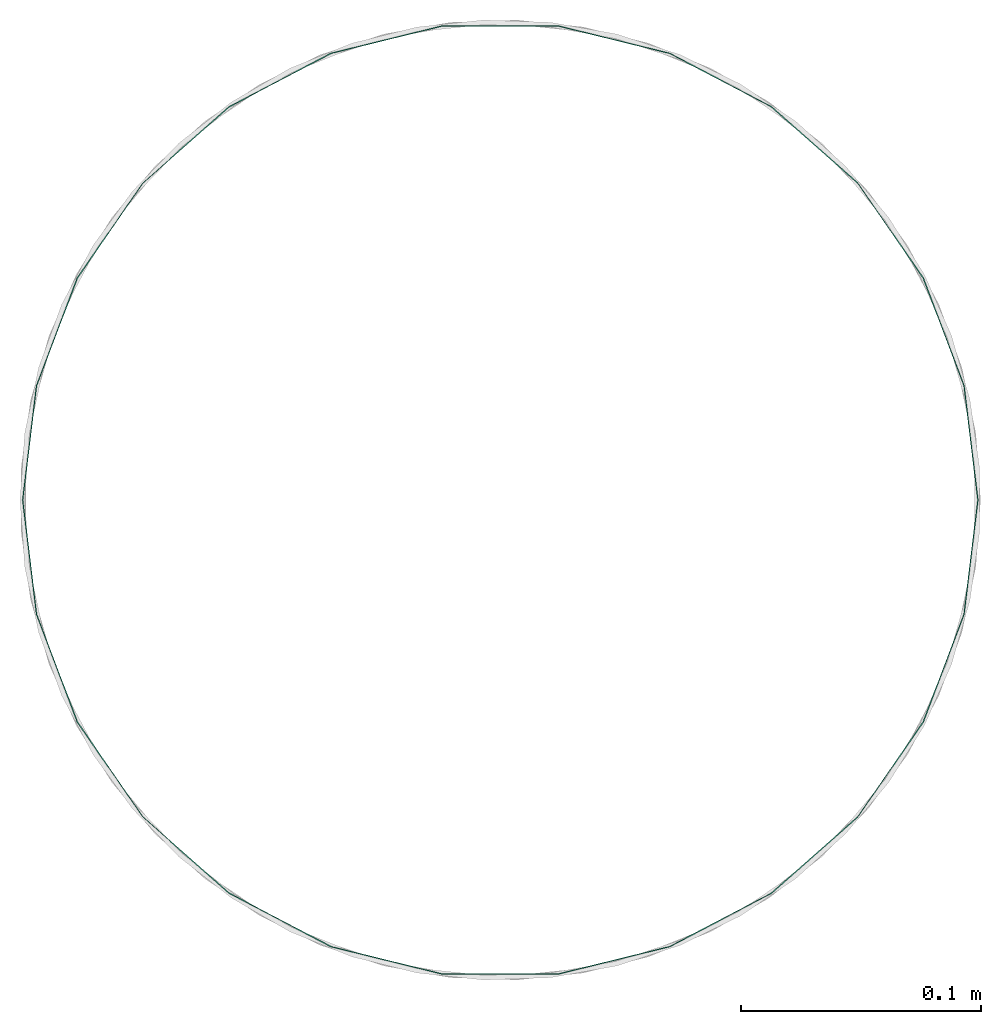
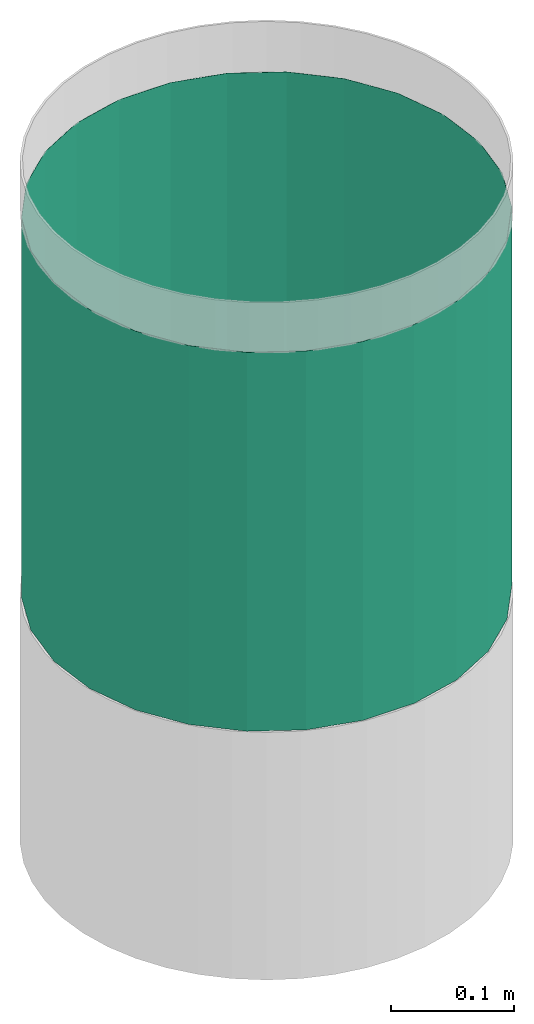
# One storey, part 2 of 2: 1 flow controller.
"""IFC2X3 building model written with IfcOpenShell, lengths in millimetres."""

from ifc_helpers import new_model, entity, si_unit, converted_unit, derived_unit, direction, frame, origin_with_axes, place, context, subcontext, project, spatial, open_shell, surface_model, source, transform, mapped, type_object, element, save


model = new_model("IFC2X3")

# Units and contexts
model_context = context("Model", 3, precision=0.01, world=frame((0.0, 4.29681676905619e-09, 0.0)), true_north=direction((4.01073788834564e-13, 1.0)))
plan_context = context("Plan", 3, precision=0.01, world=frame((0.0, 4.29681676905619e-09, 0.0)), true_north=direction((4.01073788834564e-13, 1.0)))
body_context = subcontext(model_context, "Body", "Model", "MODEL_VIEW")
ifc_project = project(units=[converted_unit("PLANEANGLEUNIT", "DEGREE", entity("IfcPositiveLengthMeasure", 0.0174532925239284), si_unit("PLANEANGLEUNIT", "RADIAN"), dimensions=[0, 0, 0, 0, 0, 0, 0]), si_unit("AREAUNIT", "SQUARE_METRE"), si_unit("LENGTHUNIT", "METRE", prefix="MILLI"), si_unit("MASSUNIT", "GRAM", prefix="KILO"), si_unit("POWERUNIT", "WATT"), si_unit("PRESSUREUNIT", "PASCAL"), si_unit("FORCEUNIT", "NEWTON", prefix="KILO"), si_unit("ELECTRICVOLTAGEUNIT", "VOLT"), si_unit("ELECTRICCURRENTUNIT", "AMPERE"), si_unit("THERMODYNAMICTEMPERATUREUNIT", "DEGREE_CELSIUS"), si_unit("TIMEUNIT", "SECOND"), si_unit("VOLUMEUNIT", "CUBIC_METRE"), derived_unit("LINEARVELOCITYUNIT", [(si_unit("LENGTHUNIT", "METRE"), 1), (si_unit("TIMEUNIT", "SECOND"), -1)]), derived_unit("VOLUMETRICFLOWRATEUNIT", [(si_unit("VOLUMEUNIT", "CUBIC_METRE"), 1), (si_unit("TIMEUNIT", "SECOND"), -1)]), derived_unit("THERMALTRANSMITTANCEUNIT", [(si_unit("POWERUNIT", "WATT"), 1), (si_unit("THERMODYNAMICTEMPERATUREUNIT", "KELVIN"), -1), (si_unit("AREAUNIT", "SQUARE_METRE"), -1)]), derived_unit("SOUNDPRESSUREUNIT", [(si_unit("PRESSUREUNIT", "PASCAL"), 1)])], contexts=[model_context, plan_context])

# Site, building, storey
site_placement = place(None, frame((0.0, -4.29681676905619e-09, 0.0), z_axis=(0.0, 0.0, 1.0), x_axis=(1.0, 0.0, 0.0)))
site = spatial("IfcSite", under=ifc_project, at=site_placement, Name="ENGM", CompositionType="ELEMENT")
building_placement = place(site_placement, frame((0.0, 4.29681676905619e-09, 0.0), z_axis=(0.0, 0.0, 1.0), x_axis=(1.0, 0.0, 0.0)))
building = spatial("IfcBuilding", under=site, at=building_placement, Name="TI", CompositionType="ELEMENT")
storey_placement = place(building_placement, frame((0.0, 0.0, 204000.0), z_axis=(0.0, 0.0, 1.0), x_axis=(1.0, 0.0, 0.0)))
storey = spatial("IfcBuildingStorey", under=building, at=storey_placement, Name="Nivå D", CompositionType="ELEMENT", Elevation=204000.0)

# Flow controller
damper_type = type_object("IfcDamperType", Name="CR2-400", PredefinedType="FIREDAMPER")
shared_shape = source(origin_with_axes(), body_context, "Body", "SurfaceModel", [
    surface_model("IfcShellBasedSurfaceModel", [(187.5, 70.49545, -185.88122), (187.5, 70.56637, -186.06824), (187.5, 113.04488, -163.7738), (187.5, 112.93127, -163.6092), (187.5, 148.95364, -131.96141), (187.5, 23.96269, -197.35053), (187.5, 23.9868, -197.54906), (187.5, -23.96269, -197.35053), (187.5, 193.21742, -47.62382), (187.5, 198.8, 0.0), (187.5, 193.02323, -47.57595), (187.5, 199.0, 0.0), (187.5, 176.20574, -92.47991), (187.5, 148.80393, -131.82878), (187.5, 176.02866, -92.38697), (187.5, -23.9868, -197.54906), (187.5, -70.49545, -185.88122), (187.5, -70.56637, -186.06824), (187.5, -112.93127, -163.6092), (187.5, -113.04488, -163.7738), (187.5, -148.80393, -131.82878), (187.5, -148.95364, -131.96141), (187.5, -176.02866, -92.38697), (187.5, -176.20574, -92.47991), (187.5, -193.21742, -47.62382), (187.5, -193.02323, -47.57595), (187.5, -198.8, 0.0), (187.5, -199.0, 0.0), (187.5, 193.21742, 47.62382), (187.5, 193.02323, 47.57595), (187.5, 176.02866, 92.38697), (187.5, 176.20574, 92.47991), (187.5, 148.80393, 131.82878), (187.5, 148.95364, 131.96141), (187.5, 113.04488, 163.7738), (187.5, 112.93127, 163.6092), (187.5, 70.49545, 185.88122), (187.5, 70.56637, 186.06824), (187.5, 23.96269, 197.35053), (187.5, 23.9868, 197.54906), (187.5, -23.96269, 197.35053), (187.5, -176.02866, 92.38697), (187.5, -148.80393, 131.82878), (187.5, -176.20574, 92.47991), (187.5, -148.95364, 131.96141), (187.5, -193.21742, 47.62382), (187.5, -193.02323, 47.57595), (187.5, -70.49545, 185.88122), (187.5, -23.9868, 197.54906), (187.5, -70.56637, 186.06824), (187.5, -113.04488, 163.7738), (187.5, -112.93127, 163.6092), (-187.5, 70.49545, 185.88122), (-187.5, 70.56637, 186.06824), (-187.5, 113.04488, 163.7738), (-187.5, 112.93127, 163.6092), (-187.5, 148.95364, 131.96141), (-187.5, 23.96269, 197.35053), (-187.5, 23.9868, 197.54906), (-187.5, -23.96269, 197.35053), (-187.5, 193.21742, 47.62382), (-187.5, 198.8, 0.0), (-187.5, 193.02323, 47.57595), (-187.5, 199.0, 0.0), (-187.5, 176.20574, 92.47991), (-187.5, 148.80393, 131.82878), (-187.5, 176.02866, 92.38697), (-187.5, -23.9868, 197.54906), (-187.5, -70.49545, 185.88122), (-187.5, -70.56637, 186.06824), (-187.5, -112.93127, 163.6092), (-187.5, -113.04488, 163.7738), (-187.5, -148.80393, 131.82878), (-187.5, -148.95364, 131.96141), (-187.5, -176.02866, 92.38697), (-187.5, -176.20574, 92.47991), (-187.5, -193.21742, 47.62382), (-187.5, -193.02323, 47.57595), (-187.5, -198.8, 0.0), (-187.5, -199.0, 0.0), (-187.5, 193.21742, -47.62382), (-187.5, 193.02323, -47.57595), (-187.5, 176.02866, -92.38697), (-187.5, 176.20574, -92.47991), (-187.5, 148.80393, -131.82878), (-187.5, 148.95364, -131.96141), (-187.5, 113.04488, -163.7738), (-187.5, 112.93127, -163.6092), (-187.5, 70.49545, -185.88122), (-187.5, 70.56637, -186.06824), (-187.5, 23.96269, -197.35053), (-187.5, 23.9868, -197.54906), (-187.5, -23.96269, -197.35053), (-187.5, -176.20574, -92.47991), (-187.5, -176.02866, -92.38697), (-187.5, -148.95364, -131.96141), (-187.5, -148.80393, -131.82878), (-187.5, -193.21742, -47.62382), (-187.5, -193.02323, -47.57595), (-187.5, -70.49545, -185.88122), (-187.5, -23.9868, -197.54906), (-187.5, -70.56637, -186.06824), (-187.5, -113.04488, -163.7738), (-187.5, -112.93127, -163.6092)], [open_shell([[[0, 1, 2]], [[3, 2, 4]], [[0, 2, 3]], [[1, 5, 6]], [[5, 1, 0]], [[6, 5, 7]], [[8, 9, 10]], [[9, 8, 11]], [[8, 10, 12]], [[4, 13, 3]], [[13, 4, 12]], [[12, 14, 13]], [[14, 12, 10]], [[15, 7, 16]], [[7, 15, 6]], [[15, 16, 17]], [[17, 18, 19]], [[18, 17, 16]], [[19, 18, 20]], [[21, 20, 22]], [[20, 21, 19]], [[21, 22, 23]], [[24, 23, 25]], [[25, 26, 24]], [[25, 23, 22]], [[24, 26, 27]], [[11, 28, 29]], [[29, 28, 30]], [[30, 31, 32]], [[31, 30, 28]], [[32, 31, 33]], [[33, 34, 35]], [[35, 34, 36]], [[36, 37, 38]], [[37, 36, 34]], [[38, 39, 40]], [[39, 38, 37]], [[35, 32, 33]], [[41, 42, 43]], [[43, 42, 44]], [[41, 43, 45]], [[27, 46, 45]], [[45, 46, 41]], [[27, 26, 46]], [[47, 40, 48]], [[48, 40, 39]], [[47, 48, 49]], [[42, 50, 44]], [[51, 50, 42]], [[49, 50, 51]], [[47, 49, 51]], [[29, 9, 11]], [[52, 53, 54]], [[55, 54, 56]], [[52, 54, 55]], [[53, 57, 58]], [[57, 53, 52]], [[58, 57, 59]], [[60, 61, 62]], [[61, 60, 63]], [[60, 62, 64]], [[56, 65, 55]], [[65, 56, 66]], [[64, 66, 56]], [[66, 64, 62]], [[67, 59, 68]], [[59, 67, 58]], [[67, 68, 69]], [[69, 70, 71]], [[70, 69, 68]], [[71, 70, 72]], [[73, 72, 74]], [[72, 73, 71]], [[73, 74, 75]], [[76, 75, 77]], [[77, 78, 76]], [[77, 75, 74]], [[76, 78, 79]], [[63, 80, 81]], [[81, 80, 82]], [[82, 83, 84]], [[83, 82, 80]], [[84, 83, 85]], [[85, 86, 87]], [[87, 86, 88]], [[88, 89, 90]], [[89, 88, 86]], [[90, 91, 92]], [[91, 90, 89]], [[87, 84, 85]], [[93, 94, 95]], [[95, 94, 96]], [[94, 93, 97]], [[79, 98, 97]], [[97, 98, 94]], [[79, 78, 98]], [[99, 92, 100]], [[100, 92, 91]], [[99, 100, 101]], [[96, 102, 95]], [[103, 102, 96]], [[101, 102, 103]], [[99, 101, 103]], [[81, 61, 63]], [[27, 79, 97]], [[93, 24, 97]], [[102, 101, 19]], [[21, 95, 102]], [[23, 93, 95]], [[17, 101, 100]], [[97, 24, 27]], [[93, 23, 24]], [[95, 21, 23]], [[102, 19, 21]], [[17, 19, 101]], [[100, 15, 17]], [[100, 91, 15]], [[6, 91, 89]], [[86, 1, 89]], [[83, 80, 12]], [[4, 85, 83]], [[2, 86, 85]], [[8, 80, 63]], [[89, 1, 6]], [[86, 2, 1]], [[85, 4, 2]], [[83, 12, 4]], [[8, 12, 80]], [[63, 11, 8]], [[91, 6, 15]], [[60, 64, 31]], [[63, 60, 28]], [[54, 53, 34]], [[33, 56, 54]], [[64, 56, 31]], [[37, 53, 58]], [[28, 11, 63]], [[31, 28, 60]], [[31, 56, 33]], [[54, 34, 33]], [[37, 34, 53]], [[58, 39, 37]], [[58, 67, 39]], [[48, 67, 69]], [[71, 49, 69]], [[75, 76, 43]], [[44, 73, 75]], [[50, 71, 73]], [[45, 76, 79]], [[69, 49, 48]], [[71, 50, 49]], [[73, 44, 50]], [[75, 43, 44]], [[45, 43, 76]], [[79, 27, 45]], [[67, 48, 39]], [[98, 78, 26]], [[98, 25, 94]], [[18, 99, 103]], [[103, 96, 20]], [[96, 94, 22]], [[92, 99, 16]], [[26, 25, 98]], [[25, 22, 94]], [[22, 20, 96]], [[20, 18, 103]], [[99, 18, 16]], [[16, 7, 92]], [[7, 90, 92]], [[88, 90, 5]], [[88, 0, 87]], [[14, 81, 82]], [[82, 84, 13]], [[84, 87, 3]], [[61, 81, 10]], [[5, 0, 88]], [[0, 3, 87]], [[3, 13, 84]], [[13, 14, 82]], [[81, 14, 10]], [[10, 9, 61]], [[7, 5, 90]], [[30, 66, 62]], [[29, 62, 61]], [[35, 52, 55]], [[55, 65, 32]], [[30, 65, 66]], [[57, 52, 36]], [[61, 9, 29]], [[62, 29, 30]], [[32, 65, 30]], [[32, 35, 55]], [[52, 35, 36]], [[36, 38, 57]], [[38, 59, 57]], [[68, 59, 40]], [[68, 47, 70]], [[41, 77, 74]], [[74, 72, 42]], [[72, 70, 51]], [[78, 77, 46]], [[40, 47, 68]], [[47, 51, 70]], [[51, 42, 72]], [[42, 41, 74]], [[77, 41, 46]], [[46, 26, 78]], [[38, 40, 59]]])]),
])
flow_controller_placement = place(storey_placement, frame((610709.54457, 693197.98838, 9653.88003999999), z_axis=(0.0, -1.0, 0.0), x_axis=(0.0, 0.0, -1.0)))
element("IfcFlowController", 1, at=flow_controller_placement, inside=storey, type_object=damper_type, Name="CR2-400", context=body_context, shape_type="MappedRepresentation", body=[
    mapped(shared_shape, transform((0.0, 0.0, 0.0), scale=1.0)),
])

save(model, "model.ifc")
